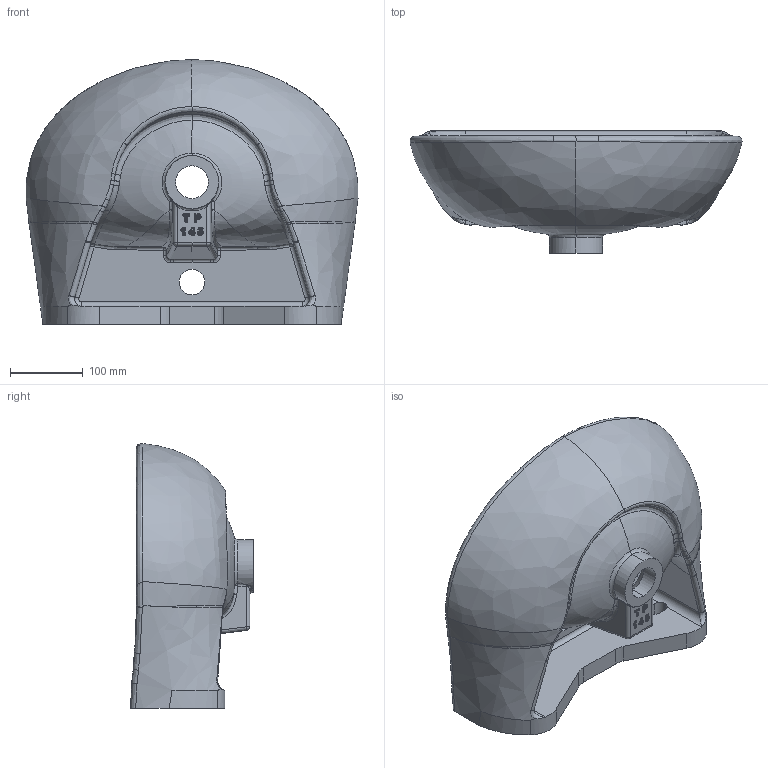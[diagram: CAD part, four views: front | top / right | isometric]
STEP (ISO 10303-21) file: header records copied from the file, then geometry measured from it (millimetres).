
FILE_DESCRIPTION (( 'STEP AP203' ), '1' );
FILE_NAME ('TP145-00CB00E-0000 .STEP', '2022-04-28T12:43:32', ( '' ), ( '' ), 'SwSTEP 2.0', 'SolidWorks 2021', '' );
FILE_SCHEMA (( 'CONFIG_CONTROL_DESIGN' ));
Length unit declared in the file: millimetre
Products named in the file (1): TP145-00CB00E-0000 
Bounding box: 456.35 x 169 x 363.98 mm (x, y, z)
Volume: 6280219.3 mm3; surface area: 549126.9 mm2
Topology: 2 solids, 2 shells, 523 faces, 1284 edges, 755 vertices
Faces by surface type: bspline 204, cylinder 134, torus 93, plane 71, sphere 19, cone 2
Entity records: 51805 total; most frequent: CARTESIAN_POINT 40945, ORIENTED_EDGE 2542, DIRECTION 1885, EDGE_CURVE 1271, AXIS2_PLACEMENT_3D 790, VERTEX_POINT 755, EDGE_LOOP 536, ADVANCED_FACE 523
